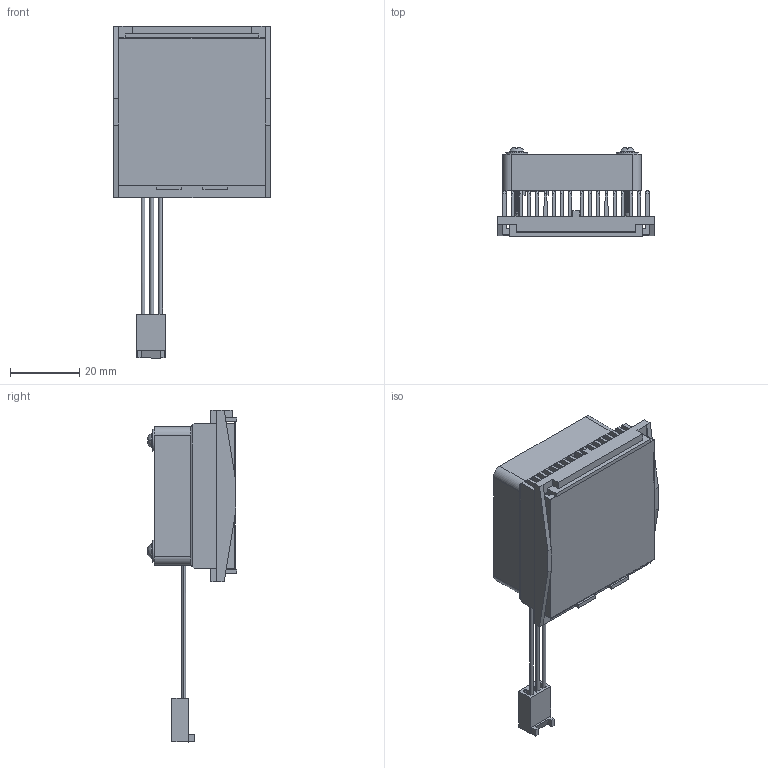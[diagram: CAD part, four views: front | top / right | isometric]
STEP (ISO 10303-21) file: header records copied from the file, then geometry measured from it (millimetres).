
FILE_DESCRIPTION (( 'STEP AP214' ), '1' );
FILE_NAME ('FJ42.5-1.7+O.STEP', '2023-03-08T17:51:09', ( '' ), ( '' ), 'SwSTEP 2.0', 'SolidWorks 2020', '' );
FILE_SCHEMA (( 'AUTOMOTIVE_DESIGN' ));
Length unit declared in the file: millimetre
Products named in the file (1): FJ42.5-1.7+O
Bounding box: 45.2 x 25.8 x 95.92 mm (x, y, z)
Volume: 20944.2 mm3; surface area: 35951.6 mm2
Topology: 12 solids, 12 shells, 1043 faces, 3035 edges, 2016 vertices
Faces by surface type: cylinder 448, plane 349, bspline 194, cone 36, sphere 8, torus 8
Entity records: 56903 total; most frequent: CARTESIAN_POINT 21523, ORIENTED_EDGE 6070, DIRECTION 3895, EDGE_CURVE 3035, VERTEX_POINT 2016, VECTOR 1471, LINE 1471, AXIS2_PLACEMENT_3D 1212
